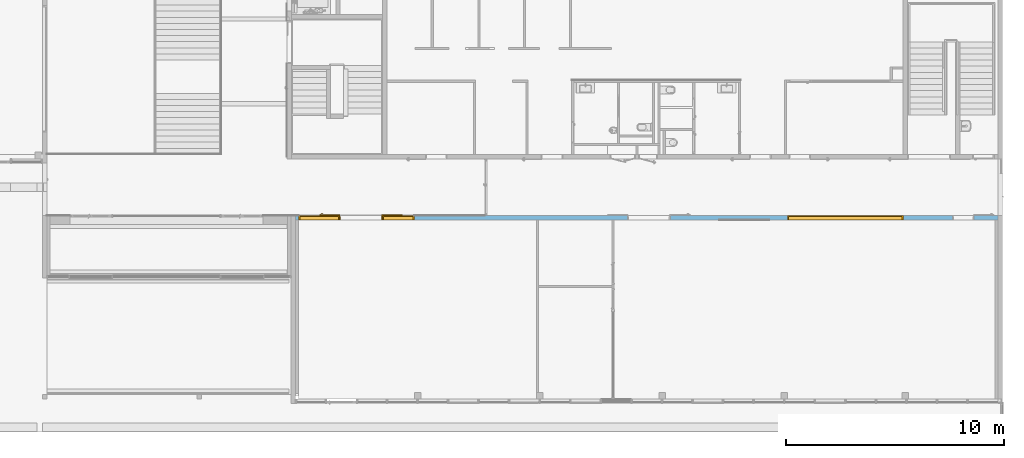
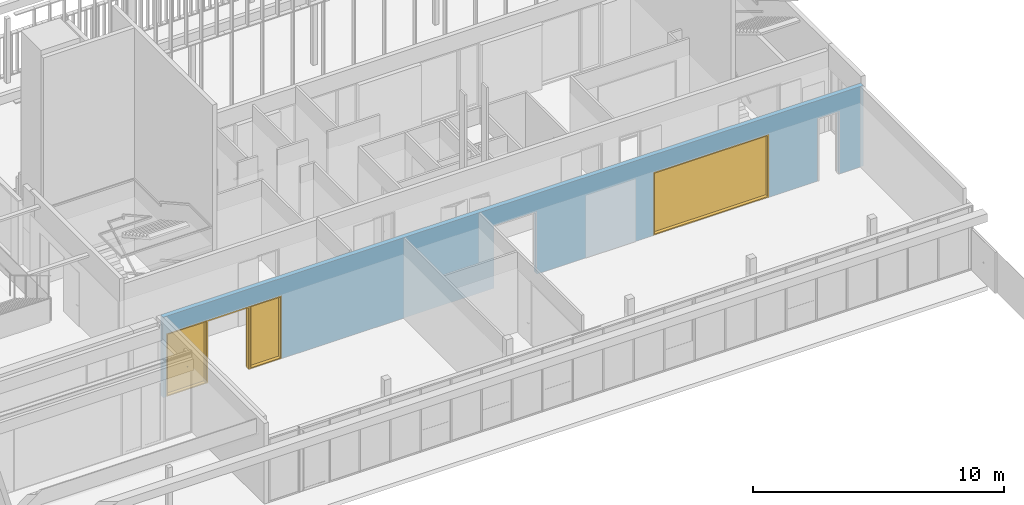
# One storey, part 223 of 240: 3 windows, 1 door, 6 openings, plus 1 element that does not belong to this part.
"""IFC2X3 building model written with IfcOpenShell, lengths in centimetres."""

import ifcopenshell
import ifcopenshell.guid

model = None  # the IFC model being written
_history = None  # IfcOwnerHistory: only IFC2X3 demands one
_inside = {}  # id of a spatial element -> (the spatial element, [elements in it])
_under = {}  # id of a project, library or spatial element -> (it, [spatial elements below it])
_declared = {}  # id of a project -> (the project, [libraries it declares])
_typed = {}  # id of a type object -> (the type object, [elements of that type])
_made_of = {}  # id of a material, layer set ... -> (it, [elements and type objects made of it])


def new_model(schema):
    """Start an empty IFC model of exactly this schema.

    Asked for "IFC4X3", IfcOpenShell would pick the latest addendum, in which some entities
    have other attributes; the version numbers below select the first issue.
    IFC2X3 requires an IfcOwnerHistory on every rooted entity: one is made here for all.
    """
    global model, _history
    if schema == "IFC4X3":
        model = ifcopenshell.file(schema_version=(4, 3, 0, 0))
    else:
        model = ifcopenshell.file(schema=schema)
    _inside.clear()
    _under.clear()
    _declared.clear()
    _typed.clear()
    _made_of.clear()
    _history = None
    if model.schema == "IFC2X3":
        org = make("IfcOrganization", Name="unknown")
        user = make(
            "IfcPersonAndOrganization",
            ThePerson=make("IfcPerson", FamilyName="unknown"),
            TheOrganization=org,
        )
        app = make(
            "IfcApplication",
            ApplicationDeveloper=org,
            Version="unknown",
            ApplicationFullName="unknown",
            ApplicationIdentifier="unknown",
        )
        _history = make(
            "IfcOwnerHistory",
            OwningUser=user,
            OwningApplication=app,
            ChangeAction="ADDED",
            CreationDate=0,
        )
    return model


def make(cls, **values):
    """One entity of the class cls with the attributes given. An attribute that is None is left unset."""
    return model.create_entity(
        cls, **{name: value for name, value in values.items() if value is not None}
    )


def entity(cls, *values):
    """Any entity or typed value of the class cls, its attributes in the order of the schema. None: left unset."""
    e = model.create_entity(cls)
    for i, value in enumerate(values):
        if value is not None:
            e[i] = value
    return e


def rooted(cls, **values):
    """An entity with a GlobalId (a new one), such as an element, a storey or a relation."""
    return make(cls, GlobalId=ifcopenshell.guid.new(), OwnerHistory=_history, **values)


def si_unit(unit_type, name, prefix=None):
    """IfcSIUnit, for example si_unit("LENGTHUNIT", "METRE", prefix="MILLI")."""
    return make("IfcSIUnit", UnitType=unit_type, Prefix=prefix, Name=name)


def converted_unit(unit_type, name, factor, base, dimensions=None, offset=None):
    """IfcConversionBasedUnit, such as the inch: factor (a typed value) times the base unit."""
    return make(
        "IfcConversionBasedUnit"
        if offset is None
        else "IfcConversionBasedUnitWithOffset",
        ConversionOffset=offset,
        Dimensions=None
        if dimensions is None
        else entity("IfcDimensionalExponents", *dimensions),
        UnitType=unit_type,
        Name=name,
        ConversionFactor=make(
            "IfcMeasureWithUnit", ValueComponent=factor, UnitComponent=base
        ),
    )


def derived_unit(unit_type, elements):
    """IfcDerivedUnit: a product of units, each with its exponent."""
    return make(
        "IfcDerivedUnit",
        Elements=[
            make("IfcDerivedUnitElement", Unit=unit, Exponent=power)
            for unit, power in elements
        ],
        UnitType=unit_type,
    )


def assignment(units):
    """IfcUnitAssignment: the units of a project."""
    return None if units is None else make("IfcUnitAssignment", Units=units)


def point(xyz):
    """IfcCartesianPoint."""
    return None if xyz is None else make("IfcCartesianPoint", Coordinates=xyz)


def direction(xyz):
    """IfcDirection."""
    return None if xyz is None else make("IfcDirection", DirectionRatios=xyz)


def frame(location, z_axis=None, x_axis=None):
    """IfcAxis2Placement3D, a coordinate frame: its origin and axes. An axis left out is left unset."""
    return make(
        "IfcAxis2Placement3D",
        Location=point(location),
        Axis=direction(z_axis),
        RefDirection=direction(x_axis),
    )


def frame_2d(location, x_axis=None):
    """IfcAxis2Placement2D, a coordinate frame in the plane: its origin and x axis."""
    return make(
        "IfcAxis2Placement2D", Location=point(location), RefDirection=direction(x_axis)
    )


def origin():
    """The frame at (0, 0, 0) with its axes left unset."""
    return frame((0.0, 0.0, 0.0))


def place(relative_to, where):
    """IfcLocalPlacement: puts the frame where relative to a parent placement (None: the world)."""
    return make(
        "IfcLocalPlacement", PlacementRelTo=relative_to, RelativePlacement=where
    )


def context(
    kind, dimensions, precision=None, world=None, true_north=None, identifier=None
):
    """IfcGeometricRepresentationContext, for example the 3D "Model" context."""
    return make(
        "IfcGeometricRepresentationContext",
        ContextIdentifier=identifier,
        ContextType=kind,
        CoordinateSpaceDimension=dimensions,
        Precision=precision,
        WorldCoordinateSystem=world,
        TrueNorth=true_north,
    )


def subcontext(parent, identifier, kind, view, scale=None):
    """IfcGeometricRepresentationSubContext, for example "Body" below "Model"."""
    return make(
        "IfcGeometricRepresentationSubContext",
        ContextIdentifier=identifier,
        ContextType=kind,
        ParentContext=parent,
        TargetScale=scale,
        TargetView=view,
    )


def project(units=None, contexts=None):
    """IfcProject with its units and contexts."""
    return rooted(
        "IfcProject",
        Name="project",
        RepresentationContexts=contexts,
        UnitsInContext=assignment(units),
    )


def spatial(cls, under=None, at=None, **own):
    """A site, building, storey or space (cls), placed at a placement, below another one or the project."""
    s = rooted(cls, ObjectPlacement=at, **own)
    if under is not None:
        _under.setdefault(under.id(), (under, []))[1].append(s)
    return s


def polyline(points):
    """IfcPolyline through the points."""
    return make("IfcPolyline", Points=[point(p) for p in points])


def profile(cls, at=None, kind="AREA", **sizes):
    """A parametric profile (cls). Its sizes go by their IFC names, for example OverallWidth=200.0."""
    return make(cls, ProfileType=kind, Position=at, **sizes)


def rectangle(**sizes):
    """IfcRectangleProfileDef."""
    return profile("IfcRectangleProfileDef", **sizes)


def extrude(swept, where, along, depth):
    """IfcExtrudedAreaSolid: the profile swept, set in the frame where, extruded along a direction by depth."""
    return make(
        "IfcExtrudedAreaSolid",
        SweptArea=swept,
        Position=where,
        ExtrudedDirection=direction(along),
        Depth=depth,
    )


def clip(a, b, op="DIFFERENCE"):
    """IfcBooleanClippingResult: the solid a cut by the half space b."""
    return make(
        "IfcBooleanClippingResult", Operator=op, FirstOperand=a, SecondOperand=b
    )


def bounded_halfspace(plane, agree, where, boundary):
    """IfcPolygonalBoundedHalfSpace: a half space limited to a polygon's prism."""
    return make(
        "IfcPolygonalBoundedHalfSpace",
        BaseSurface=make("IfcPlane", Position=plane),
        AgreementFlag=agree,
        Position=where,
        PolygonalBoundary=boundary,
    )


def faces_of(points, faces, orient=None, outer=None):
    """IfcFace entities. A face is a list of loops; a loop is a list of indices into points, from 0.

    orient and outer hold one flag for each loop. By default every Orientation is true, the
    first loop of a face is its IfcFaceOuterBound and the others are IfcFaceBound.
    """
    made = []
    for i, loops in enumerate(faces):
        bounds = []
        for j, loop in enumerate(loops):
            is_outer = j == 0 if outer is None else outer[i][j]
            bounds.append(
                make(
                    "IfcFaceOuterBound" if is_outer else "IfcFaceBound",
                    Bound=make("IfcPolyLoop", Polygon=[points[k] for k in loop]),
                    Orientation=True if orient is None else orient[i][j],
                )
            )
        made.append(make("IfcFace", Bounds=bounds))
    return made


def faceted_brep(points, faces, orient=None, outer=None, voids=None):
    """IfcFacetedBrep: a solid bounded by flat faces; with voids (closed shells), ...WithVoids."""
    shared = [point(p) for p in points]
    hull = make("IfcClosedShell", CfsFaces=faces_of(shared, faces, orient, outer))
    if voids is None:
        return make("IfcFacetedBrep", Outer=hull)
    return make(
        "IfcFacetedBrepWithVoids",
        Outer=hull,
        Voids=[
            make(cls, CfsFaces=faces_of(shared, fs, o, b)) for cls, fs, o, b in voids
        ],
    )


def shape(context_of_items, identifier, shape_type, items):
    """IfcShapeRepresentation: the items that make up one representation, for example the "Body"."""
    return make(
        "IfcShapeRepresentation",
        ContextOfItems=context_of_items,
        RepresentationIdentifier=identifier,
        RepresentationType=shape_type,
        Items=items,
    )


def source(mapping_origin, context_of_items, identifier, shape_type, items):
    """IfcRepresentationMap: a shape defined once, which mapped items show again and again."""
    return make(
        "IfcRepresentationMap",
        MappingOrigin=mapping_origin,
        MappedRepresentation=shape(context_of_items, identifier, shape_type, items),
    )


def transform(
    local_origin,
    x_axis=None,
    y_axis=None,
    z_axis=None,
    scale=None,
    scale2=None,
    scale3=None,
    uniform=True,
):
    """IfcCartesianTransformationOperator3D, or its non-uniform kind. x_axis, y_axis, z_axis: its Axis1, 2, 3."""
    if uniform:
        return make(
            "IfcCartesianTransformationOperator3D",
            Axis1=direction(x_axis),
            Axis2=direction(y_axis),
            LocalOrigin=point(local_origin),
            Scale=scale,
            Axis3=direction(z_axis),
        )
    return make(
        "IfcCartesianTransformationOperator3DnonUniform",
        Axis1=direction(x_axis),
        Axis2=direction(y_axis),
        LocalOrigin=point(local_origin),
        Scale=scale,
        Axis3=direction(z_axis),
        Scale2=scale2,
        Scale3=scale3,
    )


def mapped(mapping_source, mapping_target):
    """IfcMappedItem: shows the shape of a source again, moved by a transform."""
    return make(
        "IfcMappedItem", MappingSource=mapping_source, MappingTarget=mapping_target
    )


def material(Name=None, Category=None):
    """IfcMaterial."""
    return make("IfcMaterial", Name=Name, Category=Category)


def material_list(materials):
    """IfcMaterialList."""
    return make("IfcMaterialList", Materials=materials)


def layer(
    of_material, thickness, ventilated=None, Name=None, Category=None, Priority=None
):
    """IfcMaterialLayer: one layer of a wall or slab, of a material (None: an air gap)."""
    return make(
        "IfcMaterialLayer",
        Material=of_material,
        LayerThickness=thickness,
        IsVentilated=ventilated,
        Name=Name,
        Category=Category,
        Priority=Priority,
    )


def layer_set(layers, Name=None):
    """IfcMaterialLayerSet."""
    return make("IfcMaterialLayerSet", MaterialLayers=layers, LayerSetName=Name)


def layer_usage(for_layer_set, set_direction, sense, offset, extent=None):
    """IfcMaterialLayerSetUsage: how a layer set lies in its element."""
    return make(
        "IfcMaterialLayerSetUsage",
        ForLayerSet=for_layer_set,
        LayerSetDirection=set_direction,
        DirectionSense=sense,
        OffsetFromReferenceLine=offset,
        ReferenceExtent=extent,
    )


def made_of(thing, what):
    """Note that an element or type object is made of a material, layer set ...; save() writes the relation."""
    if what is not None:
        _made_of.setdefault(what.id(), (what, []))[1].append(thing)
    return thing


def type_object(cls, material=None, **own):
    """A type object (cls), such as IfcWallType, which elements share."""
    return made_of(rooted(cls, **own), material)


def type_shapes(of_type, sources):
    """Give a type object the sources (RepresentationMaps) that its elements show as mapped items."""
    of_type.RepresentationMaps = sources


def element(
    cls,
    number,
    at=None,
    inside=None,
    cuts=None,
    type_object=None,
    material=None,
    context=None,
    identifier="Body",
    shape_type=None,
    held_by="IfcProductDefinitionShape",
    body=None,
    shapes=None,
    **own,
):
    """One element of the class cls, such as IfcWall. Its Tag is "e" and its number.

    at: its placement. inside: the storey or other place that contains it. cuts: it is an
    opening in that element (IfcRelVoidsElement). A single representation is given by context,
    identifier, shape_type and body (its items); several are given by shapes. held_by: the class
    of the entity that holds the representations. save() writes the other relations.
    """
    e = rooted(cls, Tag="e%d" % number, ObjectPlacement=at, **own)
    if body is not None:
        shapes = [shape(context, identifier, shape_type, body)]
    if shapes is not None:
        e.Representation = make(held_by, Representations=shapes)
    if inside is not None:
        _inside.setdefault(inside.id(), (inside, []))[1].append(e)
    if cuts is not None:
        rooted(
            "IfcRelVoidsElement", RelatingBuildingElement=cuts, RelatedOpeningElement=e
        )
    if type_object is not None:
        _typed.setdefault(type_object.id(), (type_object, []))[1].append(e)
    return made_of(e, material)


def fill(opening, filler):
    """IfcRelFillsElement: the door or window that sits in an opening."""
    return rooted(
        "IfcRelFillsElement",
        RelatingOpeningElement=opening,
        RelatedBuildingElement=filler,
    )


def aggregate(whole, parts):
    """IfcRelAggregates: a whole, such as a stair, and the parts it consists of."""
    return rooted("IfcRelAggregates", RelatingObject=whole, RelatedObjects=parts)


def save(model, path):
    """Write the relations noted so far, then the file.

    IfcRelAggregates (storeys below a building ...), IfcRelContainedInSpatialStructure (elements
    in a storey), IfcRelDefinesByType, IfcRelAssociatesMaterial and IfcRelDeclares: one each for
    every whole, place, type object, material and project.
    """
    for whole, parts in _under.values():
        aggregate(whole, parts)
    for where, things in _inside.values():
        rooted(
            "IfcRelContainedInSpatialStructure",
            RelatedElements=things,
            RelatingStructure=where,
        )
    for kind, things in _typed.values():
        rooted("IfcRelDefinesByType", RelatedObjects=things, RelatingType=kind)
    for what, things in _made_of.values():
        rooted("IfcRelAssociatesMaterial", RelatedObjects=things, RelatingMaterial=what)
    for by, libraries in _declared.values():
        rooted("IfcRelDeclares", RelatingContext=by, RelatedDefinitions=libraries)
    model.write(path)


model = new_model("IFC2X3")

# Units and contexts
model_context = context("Model", 3, precision=0.001, world=origin(), true_north=direction((6.12303176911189e-17, 1.0)))
body_context = subcontext(model_context, "Body", "Model", "MODEL_VIEW")
ifc_project = project(units=[si_unit("LENGTHUNIT", "METRE", prefix="CENTI"), si_unit("AREAUNIT", "SQUARE_METRE"), si_unit("VOLUMEUNIT", "CUBIC_METRE"), converted_unit("PLANEANGLEUNIT", "DEGREE", entity("IfcRatioMeasure", 0.0174532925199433), si_unit("PLANEANGLEUNIT", "RADIAN"), dimensions=[0, 0, 0, 0, 0, 0, 0]), si_unit("MASSUNIT", "GRAM", prefix="KILO"), derived_unit("MASSDENSITYUNIT", [(si_unit("MASSUNIT", "GRAM", prefix="KILO"), 1), (si_unit("LENGTHUNIT", "METRE"), -3)]), si_unit("TIMEUNIT", "SECOND"), si_unit("FREQUENCYUNIT", "HERTZ"), si_unit("THERMODYNAMICTEMPERATUREUNIT", "DEGREE_CELSIUS"), derived_unit("THERMALTRANSMITTANCEUNIT", [(si_unit("MASSUNIT", "GRAM", prefix="KILO"), 1), (si_unit("THERMODYNAMICTEMPERATUREUNIT", "KELVIN"), -1), (si_unit("TIMEUNIT", "SECOND"), -3)]), derived_unit("VOLUMETRICFLOWRATEUNIT", [(si_unit("LENGTHUNIT", "METRE"), 3), (si_unit("TIMEUNIT", "SECOND"), -1)]), si_unit("ELECTRICCURRENTUNIT", "AMPERE"), si_unit("ELECTRICVOLTAGEUNIT", "VOLT"), si_unit("POWERUNIT", "WATT"), si_unit("FORCEUNIT", "NEWTON", prefix="KILO"), si_unit("ILLUMINANCEUNIT", "LUX"), si_unit("LUMINOUSFLUXUNIT", "LUMEN"), si_unit("LUMINOUSINTENSITYUNIT", "CANDELA"), derived_unit("USERDEFINED", [(si_unit("MASSUNIT", "GRAM", prefix="KILO"), -1), (si_unit("LENGTHUNIT", "METRE"), -2), (si_unit("TIMEUNIT", "SECOND"), 3), (si_unit("LUMINOUSFLUXUNIT", "LUMEN"), 1)]), derived_unit("LINEARVELOCITYUNIT", [(si_unit("LENGTHUNIT", "METRE"), 1), (si_unit("TIMEUNIT", "SECOND"), -1)]), si_unit("PRESSUREUNIT", "PASCAL"), derived_unit("USERDEFINED", [(si_unit("LENGTHUNIT", "METRE"), -2), (si_unit("MASSUNIT", "GRAM", prefix="KILO"), 1), (si_unit("TIMEUNIT", "SECOND"), -2)])], contexts=[model_context])

# Site, building, storey
site_placement = place(None, frame((-2781.94577612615, 7442.24238424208, 0.0)))
site = spatial("IfcSite", under=ifc_project, at=site_placement, Name="Default", CompositionType="ELEMENT")
building_placement = place(site_placement, origin())
building = spatial("IfcBuilding", under=site, at=building_placement, CompositionType="ELEMENT")
storey_placement = place(building_placement, origin())
storey = spatial("IfcBuildingStorey", under=building, at=storey_placement, Name="N00 - COO", CompositionType="ELEMENT", Elevation=0.0)

# Wall, openings, windows, door
ifc_material_1 = material(Name="01 - Maçonnerie")
ifc_layer = layer(ifc_material_1, 20.0)
ifc_layer_set = layer_set([ifc_layer], Name="Mur de base:04 - Structure - béton - 20cm")
ifc_layer_usage = layer_usage(ifc_layer_set, "AXIS2", "NEGATIVE", 10.0)
wall_type = type_object("IfcWallType", Name="Mur de base:04 - Structure - béton - 20cm", PredefinedType="STANDARD", material=ifc_layer_set)
wall_placement = place(building_placement, frame((-3629.49987968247, -2200.15656731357, 0.0)))
wall = element("IfcWallStandardCase", 1, at=wall_placement, inside=storey, type_object=wall_type, material=ifc_layer_usage, Name="Mur de base:04 - Structure - béton - 20cm", ObjectType="Mur de base:04 - Structure - béton - 20cm", context=body_context, shape_type="Clipping", body=[
    clip(extrude(rectangle(XDim=3219.49999684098, YDim=19.9999999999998, at=frame_2d((1609.74999842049, -7.63833440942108e-14), x_axis=(-1.0, 0.0))), origin(), (0.0, 0.0, 1.0), 391.0), bounded_halfspace(frame((0.0, -10.0, 391.0), z_axis=(0.0, 0.0, -1.0), x_axis=(0.0, 1.0, 0.0)), True, frame((0.0, -10.0, 391.0)), polyline([(0.0, 0.0), (15.2999999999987, 0.0), (1104.50000207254, 0.0), (1114.50000207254, 0.0), (1450.3, 0.0), (1460.3, 0.0), (3204.19999684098, 0.0), (3219.49999684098, 0.0), (3219.49999684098, 20.0), (0.0, 20.0), (0.0, 0.0)]))),
])
opening_1_placement = place(wall_placement, frame((201.699996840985, 10.0, 0.0)))
opening_1 = element("IfcOpeningElement", 2, at=opening_1_placement, cuts=wall, Name="châssis intérieur vitré:châssis intérieur vitré (h=306):1", ObjectType="Opening", context=body_context, shape_type="SweptSolid", body=[
    extrude(rectangle(XDim=306.0, YDim=186.511887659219, at=frame_2d((153.0, 93.2559438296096), x_axis=(1.0, 0.0))), frame((0.0, 0.0, 0.0), z_axis=(0.0, -1.0, 0.0), x_axis=(0.0, 0.0, 1.0)), (0.0, 0.0, 1.0), 20.0),
])
opening_2_placement = place(wall_placement, frame((201.699996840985, -10.0, 0.0)))
opening_2 = element("IfcOpeningElement", 3, at=opening_2_placement, cuts=wall, Name="Int. Double:PV (1.90m x 3.00m):1", ObjectType="Opening", context=body_context, shape_type="SweptSolid", body=[
    extrude(rectangle(XDim=304.500000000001, YDim=197.0, at=frame_2d((152.250000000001, 98.5), x_axis=(1.0, 0.0))), frame((0.0, 0.0, 0.0), z_axis=(0.0, 1.0, 0.0), x_axis=(0.0, 0.0, 1.0)), (0.0, 0.0, 1.0), 20.0),
])
opening_3_placement = place(wall_placement, frame((544.500002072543, 10.0, 0.0)))
opening_3 = element("IfcOpeningElement", 4, at=opening_3_placement, cuts=wall, Name="châssis intérieur vitré:châssis intérieur vitré (h=306):1", ObjectType="Opening", context=body_context, shape_type="SweptSolid", body=[
    extrude(rectangle(XDim=306.0, YDim=145.800005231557, at=frame_2d((153.0, 72.9000026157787), x_axis=(1.0, 0.0))), frame((0.0, 0.0, 0.0), z_axis=(0.0, -1.0, 0.0), x_axis=(0.0, 0.0, 1.0)), (0.0, 0.0, 1.0), 20.0),
])
opening_4_placement = place(wall_placement, frame((1520.3, -10.0, 0.0)))
element("IfcOpeningElement", 5, at=opening_4_placement, cuts=wall, Name="Int. Double:PV (1.90m x 3.00m):1", ObjectType="Opening", context=body_context, shape_type="SweptSolid", body=[
    extrude(rectangle(XDim=304.500000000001, YDim=197.0, at=frame_2d((152.250000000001, 98.5), x_axis=(1.0, 0.0))), frame((0.0, 0.0, 0.0), z_axis=(0.0, 1.0, 0.0), x_axis=(0.0, 0.0, 1.0)), (0.0, 0.0, 1.0), 20.0),
])
opening_5_placement = place(wall_placement, frame((3009.49999684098, -10.0, 0.0)))
element("IfcOpeningElement", 6, at=opening_5_placement, cuts=wall, Name="Int. Simple:PV (0.93m x 3.00m):1", ObjectType="Opening", context=body_context, shape_type="SweptSolid", body=[
    extrude(rectangle(XDim=304.500000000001, YDim=99.9999999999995, at=frame_2d((152.250000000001, 49.9999999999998), x_axis=(1.0, 0.0))), frame((0.0, 0.0, 0.0), z_axis=(0.0, 1.0, 0.0), x_axis=(0.0, 0.0, 1.0)), (0.0, 0.0, 1.0), 20.0),
])
opening_6_placement = place(wall_placement, frame((2784.50000199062, 10.0, 0.0)))
opening_6 = element("IfcOpeningElement", 7, at=opening_6_placement, cuts=wall, Name="châssis intérieur vitré:châssis intérieur vitré (h=306):1", ObjectType="Opening", context=body_context, shape_type="SweptSolid", body=[
    extrude(rectangle(XDim=306.0, YDim=530.0, at=frame_2d((153.0, 265.0), x_axis=(1.0, 0.0))), frame((0.0, 0.0, 0.0), z_axis=(0.0, -1.0, 0.0), x_axis=(0.0, 0.0, 1.0)), (0.0, 0.0, 1.0), 20.0),
])
ifc_material_2 = material(Name="Verre")
ifc_material_3 = material(Name="huisserie bois")
ifc_material_list_1 = material_list([ifc_material_2, ifc_material_3])
ifc_material_list_2 = material_list([ifc_material_2, ifc_material_3])
window_style_1 = type_object("IfcWindowStyle", Name="châssis intérieur vitré (h=306)", ConstructionType="NOTDEFINED", OperationType="NOTDEFINED", ParameterTakesPrecedence=False, Sizeable=False, material=ifc_material_list_2)
shared_shape_1 = source(origin(), body_context, "Body", "Brep", [
    faceted_brep([(183.511887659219, 5.0, 303.0), (183.511887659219, 5.0, 3.0), (3.0, 5.0, 3.0), (3.0, 5.0, 303.0), (183.511887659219, 2.0, 303.0), (183.511887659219, 2.0, 3.0), (3.0, 2.0, 3.0), (3.0, 2.0, 303.0)], [[[0, 1, 2, 3]], [[1, 0, 4, 5]], [[2, 1, 5, 6]], [[3, 2, 6, 7]], [[4, 7, 6, 5]], [[0, 3, 7, 4]]]),
    faceted_brep([(183.511887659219, 2.0, 303.0), (183.511887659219, 0.0, 303.0), (183.511887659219, 0.0, 3.0), (183.511887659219, 2.0, 3.0), (181.511887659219, 0.0, 5.0), (5.0, 0.0, 5.0), (5.0, 0.0, 301.0), (181.511887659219, 0.0, 301.0), (3.0, 0.0, 303.0), (3.0, 0.0, 3.0), (3.0, 2.0, 3.0), (3.0, 2.0, 303.0), (181.511887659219, 2.0, 301.0), (5.0, 2.0, 301.0), (5.0, 2.0, 5.0), (181.511887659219, 2.0, 5.0)], [[[0, 1, 2, 3]], [[4, 5, 6, 7], [1, 8, 9, 2]], [[3, 2, 9, 10]], [[3, 10, 11, 0], [12, 13, 14, 15]], [[7, 12, 15, 4]], [[4, 15, 14, 5]], [[10, 9, 8, 11]], [[5, 14, 13, 6]], [[11, 8, 1, 0]], [[6, 13, 12, 7]]], outer=[[True], [False, True], [True], [True, False], [True], [True], [True], [True], [True], [True]]),
    faceted_brep([(181.511887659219, 5.0, 301.0), (181.511887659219, 20.0, 301.0), (181.511887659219, 20.0, 5.0), (181.511887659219, 5.0, 5.0), (186.511887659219, 20.0, 0.0), (0.0, 20.0, 0.0), (0.0, 20.0, 306.0), (186.511887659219, 20.0, 306.0), (5.0, 20.0, 301.0), (5.0, 20.0, 5.0), (5.0, 5.0, 5.0), (5.0, 5.0, 301.0), (183.511887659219, 5.0, 303.0), (3.0, 5.0, 303.0), (3.0, 5.0, 3.0), (183.511887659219, 5.0, 3.0), (183.511887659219, 0.0, 303.0), (183.511887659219, 0.0, 3.0), (3.0, 0.0, 3.0), (3.0, 0.0, 303.0), (186.511887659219, 0.0, 306.0), (0.0, 0.0, 306.0), (0.0, 0.0, 0.0), (186.511887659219, 0.0, 0.0)], [[[0, 1, 2, 3]], [[4, 5, 6, 7], [1, 8, 9, 2]], [[3, 2, 9, 10]], [[3, 10, 11, 0], [12, 13, 14, 15]], [[16, 12, 15, 17]], [[17, 15, 14, 18]], [[17, 18, 19, 16], [20, 21, 22, 23]], [[7, 20, 23, 4]], [[4, 23, 22, 5]], [[10, 9, 8, 11]], [[18, 14, 13, 19]], [[5, 22, 21, 6]], [[11, 8, 1, 0]], [[19, 13, 12, 16]], [[6, 21, 20, 7]]], outer=[[True], [True, False], [True], [False, True], [True], [True], [False, True], [True], [True], [True], [True], [True], [True], [True], [True]]),
])
type_shapes(window_style_1, [shared_shape_1])
window_1_placement = place(opening_1_placement, frame((0.0, 0.0, 0.0), z_axis=(0.0, 0.0, 1.0), x_axis=(-1.0, 0.0, 0.0)))
window_1 = element("IfcWindow", 8, at=window_1_placement, inside=storey, type_object=window_style_1, material=ifc_material_list_1, Name="châssis intérieur vitré:châssis intérieur vitré (h=306)", ObjectType="châssis intérieur vitré:châssis intérieur vitré (h=306)", OverallHeight=306.0, OverallWidth=186.511887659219, context=body_context, shape_type="MappedRepresentation", body=[
    mapped(shared_shape_1, transform((0.0, 0.0, 0.0), scale=1.0)),
])
fill(opening_1, window_1)
ifc_material_list_3 = material_list([ifc_material_2, ifc_material_3])
ifc_material_list_4 = material_list([ifc_material_2, ifc_material_3])
window_style_2 = type_object("IfcWindowStyle", Name="châssis intérieur vitré (h=306)", ConstructionType="NOTDEFINED", OperationType="NOTDEFINED", ParameterTakesPrecedence=False, Sizeable=False, material=ifc_material_list_4)
shared_shape_2 = source(origin(), body_context, "Body", "Brep", [
    faceted_brep([(527.0, 5.0, 303.0), (527.0, 5.0, 3.0), (3.0, 5.0, 3.0), (3.0, 5.0, 303.0), (527.0, 2.0, 303.0), (527.0, 2.0, 3.0), (3.0, 2.0, 3.0), (3.0, 2.0, 303.0)], [[[0, 1, 2, 3]], [[1, 0, 4, 5]], [[2, 1, 5, 6]], [[3, 2, 6, 7]], [[4, 7, 6, 5]], [[0, 3, 7, 4]]]),
    faceted_brep([(527.0, 2.0, 303.0), (527.0, 0.0, 303.0), (527.0, 0.0, 3.0), (527.0, 2.0, 3.0), (525.0, 0.0, 5.0), (5.0, 0.0, 5.0), (5.0, 0.0, 301.0), (525.0, 0.0, 301.0), (3.0, 0.0, 303.0), (3.0, 0.0, 3.0), (3.0, 2.0, 3.0), (3.0, 2.0, 303.0), (525.0, 2.0, 301.0), (5.0, 2.0, 301.0), (5.0, 2.0, 5.0), (525.0, 2.0, 5.0)], [[[0, 1, 2, 3]], [[4, 5, 6, 7], [1, 8, 9, 2]], [[3, 2, 9, 10]], [[3, 10, 11, 0], [12, 13, 14, 15]], [[7, 12, 15, 4]], [[4, 15, 14, 5]], [[10, 9, 8, 11]], [[5, 14, 13, 6]], [[11, 8, 1, 0]], [[6, 13, 12, 7]]], outer=[[True], [False, True], [True], [True, False], [True], [True], [True], [True], [True], [True]]),
    faceted_brep([(525.0, 5.0, 301.0), (525.0, 20.0, 301.0), (525.0, 20.0, 5.0), (525.0, 5.0, 5.0), (530.0, 20.0, 0.0), (0.0, 20.0, 0.0), (0.0, 20.0, 306.0), (530.0, 20.0, 306.0), (5.0, 20.0, 301.0), (5.0, 20.0, 5.0), (5.0, 5.0, 5.0), (5.0, 5.0, 301.0), (527.0, 5.0, 303.0), (3.0, 5.0, 303.0), (3.0, 5.0, 3.0), (527.0, 5.0, 3.0), (527.0, 0.0, 303.0), (527.0, 0.0, 3.0), (3.0, 0.0, 3.0), (3.0, 0.0, 303.0), (530.0, 0.0, 306.0), (0.0, 0.0, 306.0), (0.0, 0.0, 0.0), (530.0, 0.0, 0.0)], [[[0, 1, 2, 3]], [[4, 5, 6, 7], [1, 8, 9, 2]], [[3, 2, 9, 10]], [[3, 10, 11, 0], [12, 13, 14, 15]], [[16, 12, 15, 17]], [[17, 15, 14, 18]], [[17, 18, 19, 16], [20, 21, 22, 23]], [[7, 20, 23, 4]], [[4, 23, 22, 5]], [[10, 9, 8, 11]], [[18, 14, 13, 19]], [[5, 22, 21, 6]], [[11, 8, 1, 0]], [[19, 13, 12, 16]], [[6, 21, 20, 7]]], outer=[[True], [True, False], [True], [False, True], [True], [True], [False, True], [True], [True], [True], [True], [True], [True], [True], [True]]),
])
type_shapes(window_style_2, [shared_shape_2])
window_2_placement = place(opening_6_placement, frame((0.0, 0.0, 0.0), z_axis=(0.0, 0.0, 1.0), x_axis=(-1.0, 0.0, 0.0)))
window_2 = element("IfcWindow", 9, at=window_2_placement, inside=storey, type_object=window_style_2, material=ifc_material_list_3, Name="châssis intérieur vitré:châssis intérieur vitré (h=306)", ObjectType="châssis intérieur vitré:châssis intérieur vitré (h=306)", OverallHeight=306.0, OverallWidth=530.0, context=body_context, shape_type="MappedRepresentation", body=[
    mapped(shared_shape_2, transform((0.0, 0.0, 0.0), scale=1.0)),
])
fill(opening_6, window_2)
ifc_material_4 = material(Name="Bois - Panneau de porte")
ifc_material_5 = material(Name="Finition Peinture - Blanc satiné")
ifc_material_6 = material(Name="Bois - Cadre de porte")
ifc_material_list_5 = material_list([ifc_material_4, ifc_material_5, ifc_material_6])
ifc_material_list_6 = material_list([ifc_material_4, ifc_material_5, ifc_material_6])
door_style = type_object("IfcDoorStyle", Name="PV (1.90m x 3.00m)", ConstructionType="NOTDEFINED", OperationType="DOUBLE_DOOR_SINGLE_SWING", ParameterTakesPrecedence=False, Sizeable=False, material=ifc_material_list_6)
shared_shape_3 = source(origin(), body_context, "Body", "Brep", [
    faceted_brep([(-91.4999999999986, -4.0, 301.0), (-91.4999999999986, -4.0, 0.0), (3.50000000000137, -4.0, 0.0), (3.50000000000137, -4.0, 301.0), (-91.4999999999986, 0.0, 301.0), (3.50000000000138, 0.0, 301.0), (3.50000000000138, 0.0, 0.0), (-91.4999999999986, 0.0, 0.0)], [[[0, 1, 2, 3]], [[4, 5, 6, 7]], [[3, 5, 4, 0]], [[2, 6, 5, 3]], [[1, 7, 6, 2]], [[0, 4, 7, 1]]]),
    faceted_brep([(281.464723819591, 0.499999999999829, 86.6003983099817), (280.500000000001, 0.499999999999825, 87.0), (280.500000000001, 0.499999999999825, 108.0), (281.464723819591, 0.499999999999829, 108.399601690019), (282.500000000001, 0.499999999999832, 108.535898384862), (283.535276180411, 0.499999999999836, 108.399601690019), (284.500000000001, 0.499999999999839, 108.0), (284.500000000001, 0.499999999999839, 87.0), (283.535276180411, 0.499999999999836, 86.6003983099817), (282.500000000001, 0.499999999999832, 86.464101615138), (281.464723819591, 0.0, 108.399601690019), (280.500000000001, 0.0, 108.0), (280.500000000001, 0.0, 87.0), (281.464723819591, 0.0, 86.6003983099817), (282.500000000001, 0.0, 86.464101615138), (283.535276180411, 0.0, 86.6003983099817), (284.500000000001, 0.0, 87.0), (284.500000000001, 0.0, 108.0), (283.535276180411, 0.0, 108.399601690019), (282.500000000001, 0.0, 108.535898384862)], [[[0, 1, 2, 3, 4, 5, 6, 7, 8, 9]], [[10, 11, 12, 13, 14, 15, 16, 17, 18, 19]], [[16, 15, 8, 7]], [[8, 15, 14, 9]], [[14, 13, 0, 9]], [[13, 12, 1, 0]], [[2, 1, 12, 11]], [[11, 10, 3, 2]], [[3, 10, 19, 4]], [[19, 18, 5, 4]], [[18, 17, 6, 5]], [[7, 6, 17, 16]]]),
    faceted_brep([(281.464723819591, -4.0, 86.6003983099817), (280.500000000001, -4.0, 87.0), (280.500000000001, -4.0, 108.0), (281.464723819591, -4.0, 108.399601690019), (282.500000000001, -4.0, 108.535898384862), (283.535276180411, -4.0, 108.399601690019), (284.500000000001, -4.0, 108.0), (284.500000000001, -4.0, 87.0), (283.535276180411, -4.0, 86.6003983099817), (282.500000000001, -4.0, 86.464101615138), (281.464723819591, -4.50000000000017, 108.399601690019), (280.500000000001, -4.50000000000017, 108.0), (280.500000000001, -4.50000000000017, 87.0), (281.464723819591, -4.50000000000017, 86.6003983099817), (282.500000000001, -4.50000000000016, 86.464101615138), (283.535276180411, -4.50000000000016, 86.6003983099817), (284.500000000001, -4.50000000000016, 87.0), (284.500000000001, -4.50000000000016, 108.0), (283.535276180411, -4.50000000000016, 108.399601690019), (282.500000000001, -4.50000000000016, 108.535898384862)], [[[0, 1, 2, 3, 4, 5, 6, 7, 8, 9]], [[10, 11, 12, 13, 14, 15, 16, 17, 18, 19]], [[11, 10, 3, 2]], [[3, 10, 19, 4]], [[19, 18, 5, 4]], [[18, 17, 6, 5]], [[7, 6, 17, 16]], [[16, 15, 8, 7]], [[8, 15, 14, 9]], [[14, 13, 0, 9]], [[13, 12, 1, 0]], [[2, 1, 12, 11]]]),
    faceted_brep([(282.702529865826, 0.49999999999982, 100.778044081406), (282.297470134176, 0.499999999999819, 100.778044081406), (281.899999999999, 0.499999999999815, 100.699999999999), (281.9, 0.499999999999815, 99.3000000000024), (282.297470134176, 0.499999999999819, 99.2219559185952), (282.702529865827, 0.49999999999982, 99.221955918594), (283.100000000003, 0.499999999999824, 99.2999999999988), (283.100000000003, 0.499999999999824, 100.7), (283.100000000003, 3.26509507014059, 100.7), (282.702529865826, 3.10045754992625, 100.778044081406), (281.097641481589, 4.70534593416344, 100.778044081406), (280.929860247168, 4.30028620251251, 100.778044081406), (282.297470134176, 2.93267631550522, 100.778044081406), (281.899999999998, 2.76803879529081, 100.7), (281.899999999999, 2.76803879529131, 99.3000000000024), (282.297470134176, 2.93267631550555, 99.2219559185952), (280.929860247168, 4.3002862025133, 99.2219559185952), (281.097641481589, 4.70534593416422, 99.221955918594), (282.702529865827, 3.10045754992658, 99.221955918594), (283.100000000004, 3.26509507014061, 99.2999999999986), (281.262279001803, 5.10281606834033, 100.7), (280.765222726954, 3.90281606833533, 100.7), (280.765222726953, 3.9028160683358, 99.3000000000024), (281.262279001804, 5.10281606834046, 99.2999999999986), (272.498135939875, 5.1028160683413, 99.2999999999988), (272.498135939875, 4.70534593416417, 99.221955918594), (272.498135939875, 4.30028620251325, 99.2219559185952), (272.498135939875, 3.90281606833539, 99.3000000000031), (272.498135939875, 3.90281606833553, 100.7), (272.498135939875, 4.30028620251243, 100.778044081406), (272.498135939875, 4.70534593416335, 100.778044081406), (272.498135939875, 5.10281606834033, 100.699999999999), (277.26923027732, 5.10281606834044, 100.7), (276.713998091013, 4.50281606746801, 100.78786867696), (276.631679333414, 3.90281606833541, 100.7), (276.631679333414, 3.90281606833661, 99.3000000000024), (276.713998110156, 4.50281607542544, 99.2121313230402), (277.269229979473, 5.10281606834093, 99.2999999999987)], [[[0, 1, 2, 3, 4, 5, 6, 7]], [[8, 9, 0, 7]], [[9, 10, 11, 12, 1, 0]], [[12, 13, 2, 1]], [[3, 2, 13, 14]], [[14, 15, 4, 3]], [[15, 16, 17, 18, 5, 4]], [[18, 19, 6, 5]], [[7, 6, 19, 8]], [[20, 10, 9, 8]], [[11, 21, 13, 12]], [[14, 13, 21, 22]], [[22, 16, 15, 14]], [[17, 23, 19, 18]], [[8, 19, 23, 20]], [[24, 25, 26, 27, 28, 29, 30, 31]], [[32, 30, 33]], [[31, 30, 32]], [[10, 20, 32]], [[33, 34, 11]], [[21, 11, 34]], [[34, 29, 28]], [[30, 29, 33]], [[29, 34, 33]], [[10, 32, 33]], [[10, 33, 11]], [[22, 21, 34, 28, 27, 35]], [[35, 26, 36]], [[37, 36, 25]], [[22, 35, 16]], [[35, 27, 26]], [[24, 37, 25]], [[23, 17, 37]], [[37, 17, 36]], [[17, 16, 36]], [[16, 35, 36]], [[25, 36, 26]], [[20, 23, 37, 24, 31, 32]]]),
    faceted_brep([(282.702529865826, -4.50000000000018, 100.778044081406), (283.100000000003, -4.50000000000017, 100.7), (283.100000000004, -4.50000000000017, 99.2999999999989), (282.702529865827, -4.50000000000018, 99.221955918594), (282.297470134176, -4.50000000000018, 99.2219559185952), (281.899999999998, -4.50000000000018, 99.3000000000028), (281.899999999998, -4.50000000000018, 100.7), (282.297470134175, -4.50000000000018, 100.778044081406), (281.899999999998, -6.74852045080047, 99.3000000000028), (281.899999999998, -6.74852045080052, 100.7), (282.297470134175, -6.91315797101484, 100.778044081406), (280.916109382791, -8.29451872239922, 100.778044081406), (281.083890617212, -8.69957845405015, 100.778044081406), (282.702529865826, -7.08093920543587, 100.778044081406), (283.100000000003, -7.24557672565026, 100.7), (283.100000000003, -7.24557672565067, 99.2999999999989), (282.702529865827, -7.08093920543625, 99.221955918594), (281.083890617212, -8.69957845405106, 99.221955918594), (280.916109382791, -8.29451872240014, 99.2219559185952), (282.297470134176, -6.91315797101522, 99.2219559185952), (280.751471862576, -7.89704858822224, 99.3000000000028), (280.751471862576, -7.89704858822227, 100.7), (281.248528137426, -9.09704858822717, 100.7), (281.248528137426, -9.09704858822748, 99.2999999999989), (272.495421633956, -7.89704858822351, 99.3000000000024), (272.495421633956, -8.29451872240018, 99.2219559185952), (272.495421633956, -8.69957845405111, 99.221955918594), (272.495421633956, -9.09704858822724, 99.2999999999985), (272.495421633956, -9.09704858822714, 100.7), (272.495421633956, -8.69957845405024, 100.778044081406), (272.495421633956, -8.29451872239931, 100.778044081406), (272.495421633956, -7.89704858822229, 100.7), (276.623447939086, -7.89704858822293, 99.3000000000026), (276.623446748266, -7.89704858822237, 100.7), (276.705765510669, -8.49704858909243, 100.78786867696), (277.25547942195, -9.09704858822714, 100.7), (277.255479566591, -9.09704858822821, 99.2999999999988), (276.705765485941, -8.49704858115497, 99.2121313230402)], [[[0, 1, 2, 3, 4, 5, 6, 7]], [[6, 5, 8, 9]], [[9, 10, 7, 6]], [[10, 11, 12, 13, 0, 7]], [[13, 14, 1, 0]], [[2, 1, 14, 15]], [[15, 16, 3, 2]], [[16, 17, 18, 19, 4, 3]], [[19, 8, 5, 4]], [[9, 8, 20, 21]], [[21, 11, 10, 9]], [[12, 22, 14, 13]], [[15, 14, 22, 23]], [[23, 17, 16, 15]], [[18, 20, 8, 19]], [[24, 25, 26, 27, 28, 29, 30, 31]], [[21, 20, 32, 24, 31, 33]], [[33, 30, 34]], [[35, 34, 29]], [[21, 33, 11]], [[33, 31, 30]], [[28, 35, 29]], [[22, 12, 35]], [[35, 12, 34]], [[12, 11, 34]], [[11, 33, 34]], [[29, 34, 30]], [[22, 35, 28, 27, 36, 23]], [[36, 26, 37]], [[27, 26, 36]], [[17, 23, 36]], [[37, 32, 18]], [[20, 18, 32]], [[32, 25, 24]], [[26, 25, 37]], [[25, 32, 37]], [[17, 36, 37]], [[17, 37, 18]]]),
    faceted_brep([(288.500000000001, -4.0, 301.0), (193.500000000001, -4.0, 301.0), (193.500000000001, -4.0, 0.0), (288.500000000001, -4.0, 0.0), (288.500000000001, 0.0, 301.0), (288.500000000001, 0.0, 0.0), (193.500000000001, 0.0, 0.0), (193.500000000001, 0.0, 301.0)], [[[0, 1, 2, 3]], [[4, 5, 6, 7]], [[1, 0, 4, 7]], [[2, 1, 7, 6]], [[3, 2, 6, 5]], [[0, 3, 5, 4]]]),
    faceted_brep([(0.0, 0.0, 0.0), (0.0, 20.0, 0.0), (5.0, 20.0, 0.0), (5.0, 4.0, 0.0), (3.5000000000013, 4.0, 0.0), (3.5000000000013, 0.0, 0.0), (0.0, 0.0, 304.500000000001), (0.0, 20.0, 304.500000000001), (197.0, 20.0, 304.500000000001), (197.0, 20.0, 0.0), (192.0, 20.0, 0.0), (192.0, 20.0, 299.5), (5.0, 20.0, 299.5), (5.0, 4.0, 299.5), (192.0, 4.0, 299.5), (192.0, 4.0, 0.0), (193.499999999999, 4.0, 0.0), (193.499999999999, 4.0, 301.0), (3.5000000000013, 4.0, 301.0), (3.5000000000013, 0.0, 301.0), (193.499999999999, 0.0, 301.0), (193.499999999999, 0.0, 0.0), (197.0, 0.0, 0.0), (197.0, 0.0, 304.500000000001)], [[[0, 1, 2, 3, 4, 5]], [[1, 0, 6, 7]], [[2, 1, 7, 8, 9, 10, 11, 12]], [[3, 2, 12, 13]], [[4, 3, 13, 14, 15, 16, 17, 18]], [[5, 4, 18, 19]], [[0, 5, 19, 20, 21, 22, 23, 6]], [[8, 23, 22, 9]], [[22, 21, 16, 15, 10, 9]], [[14, 11, 10, 15]], [[20, 17, 16, 21]], [[7, 6, 23, 8]], [[13, 12, 11, 14]], [[19, 18, 17, 20]]]),
    faceted_brep([(1.49999999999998, 20.0, 0.0), (-1.50000000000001, 20.0, 0.0), (-1.50000000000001, 20.5000000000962, 0.0), (1.49999999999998, 20.5000000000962, 0.0), (1.49999999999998, 20.0, 303.0), (195.5, 20.0, 303.0), (195.5, 20.0, 0.0), (198.5, 20.0, 0.0), (198.5, 20.0, 306.0), (-1.50000000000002, 20.0, 306.0), (-1.50000000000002, 20.5000000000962, 306.0), (198.5, 20.5000000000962, 306.0), (198.5, 20.5000000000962, 0.0), (195.5, 20.5000000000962, 0.0), (195.5, 20.5000000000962, 303.0), (1.49999999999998, 20.5000000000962, 303.0)], [[[0, 1, 2, 3]], [[1, 0, 4, 5, 6, 7, 8, 9]], [[2, 1, 9, 10]], [[3, 2, 10, 11, 12, 13, 14, 15]], [[0, 3, 15, 4]], [[5, 14, 13, 6]], [[6, 13, 12, 7]], [[11, 8, 7, 12]], [[10, 9, 8, 11]], [[4, 15, 14, 5]]]),
    faceted_brep([(-1.50000000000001, -0.500000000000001, 0.0), (1.49999999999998, -0.500000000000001, 0.0), (1.49999999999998, -0.500000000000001, 303.0), (195.5, -0.500000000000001, 303.0), (195.5, -0.500000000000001, 0.0), (198.5, -0.500000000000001, 0.0), (198.5, -0.500000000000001, 306.0), (-1.50000000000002, -0.500000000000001, 306.0), (-1.50000000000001, 0.0, 0.0), (-1.50000000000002, 0.0, 306.0), (1.49999999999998, 0.0, 0.0), (198.5, 0.0, 306.0), (198.5, 0.0, 0.0), (195.5, 0.0, 0.0), (195.5, 0.0, 303.0), (1.49999999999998, 0.0, 303.0)], [[[0, 1, 2, 3, 4, 5, 6, 7]], [[8, 0, 7, 9]], [[10, 8, 9, 11, 12, 13, 14, 15]], [[1, 10, 15, 2]], [[3, 14, 13, 4]], [[11, 6, 5, 12]], [[9, 7, 6, 11]], [[2, 15, 14, 3]], [[4, 13, 12, 5]], [[1, 0, 8, 10]]]),
])
type_shapes(door_style, [shared_shape_3])
door_placement = place(opening_2_placement, frame((197.0, 20.0, 0.0), z_axis=(0.0, 0.0, 1.0), x_axis=(-1.0, 0.0, 0.0)))
door = element("IfcDoor", 10, at=door_placement, inside=storey, type_object=door_style, material=ifc_material_list_5, Name="Int. Double:PV (1.90m x 3.00m)", ObjectType="Int. Double:PV (1.90m x 3.00m)", OverallHeight=304.500000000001, OverallWidth=197.0, context=body_context, shape_type="MappedRepresentation", body=[
    mapped(shared_shape_3, transform((0.0, 0.0, 0.0), scale=1.0)),
])
fill(opening_2, door)
ifc_material_list_7 = material_list([ifc_material_2, ifc_material_3])
ifc_material_list_8 = material_list([ifc_material_2, ifc_material_3])
window_style_3 = type_object("IfcWindowStyle", Name="châssis intérieur vitré (h=306)", ConstructionType="NOTDEFINED", OperationType="NOTDEFINED", ParameterTakesPrecedence=False, Sizeable=False, material=ifc_material_list_8)
shared_shape_4 = source(origin(), body_context, "Body", "Brep", [
    faceted_brep([(3.0, 5.0, 303.0), (142.800005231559, 5.0, 303.0), (142.800005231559, 5.0, 3.0), (3.0, 5.0, 3.0), (3.0, 2.0, 3.0), (3.0, 2.0, 303.0), (142.800005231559, 2.0, 3.0), (142.800005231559, 2.0, 303.0)], [[[0, 1, 2, 3]], [[3, 4, 5, 0]], [[2, 6, 4, 3]], [[1, 7, 6, 2]], [[5, 4, 6, 7]], [[0, 5, 7, 1]]]),
    faceted_brep([(3.0, 2.0, 303.0), (3.0, 2.0, 3.0), (3.0, 0.0, 3.0), (3.0, 0.0, 303.0), (142.800005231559, 0.0, 3.0), (142.800005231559, 0.0, 303.0), (5.0, 0.0, 5.0), (5.0, 0.0, 301.0), (140.800005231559, 0.0, 301.0), (140.800005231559, 0.0, 5.0), (142.800005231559, 2.0, 3.0), (142.800005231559, 2.0, 303.0), (5.0, 2.0, 301.0), (5.0, 2.0, 5.0), (140.800005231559, 2.0, 5.0), (140.800005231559, 2.0, 301.0)], [[[0, 1, 2, 3]], [[3, 2, 4, 5], [6, 7, 8, 9]], [[1, 10, 4, 2]], [[1, 0, 11, 10], [12, 13, 14, 15]], [[7, 6, 13, 12]], [[6, 9, 14, 13]], [[10, 11, 5, 4]], [[9, 8, 15, 14]], [[11, 0, 3, 5]], [[8, 7, 12, 15]]]),
    faceted_brep([(5.0, 5.0, 301.0), (5.0, 5.0, 5.0), (5.0, 20.0, 5.0), (5.0, 20.0, 301.0), (140.800005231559, 20.0, 5.0), (140.800005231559, 20.0, 301.0), (0.0, 20.0, 0.0), (0.0, 20.0, 306.0), (145.800005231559, 20.0, 306.0), (145.800005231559, 20.0, 0.0), (140.800005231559, 5.0, 5.0), (140.800005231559, 5.0, 301.0), (3.0, 5.0, 303.0), (3.0, 5.0, 3.0), (142.800005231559, 5.0, 3.0), (142.800005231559, 5.0, 303.0), (3.0, 0.0, 303.0), (3.0, 0.0, 3.0), (142.800005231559, 0.0, 3.0), (142.800005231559, 0.0, 303.0), (0.0, 0.0, 306.0), (0.0, 0.0, 0.0), (145.800005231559, 0.0, 0.0), (145.800005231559, 0.0, 306.0)], [[[0, 1, 2, 3]], [[3, 2, 4, 5], [6, 7, 8, 9]], [[1, 10, 4, 2]], [[1, 0, 11, 10], [12, 13, 14, 15]], [[16, 17, 13, 12]], [[17, 18, 14, 13]], [[17, 16, 19, 18], [20, 21, 22, 23]], [[7, 6, 21, 20]], [[6, 9, 22, 21]], [[10, 11, 5, 4]], [[18, 19, 15, 14]], [[9, 8, 23, 22]], [[11, 0, 3, 5]], [[19, 16, 12, 15]], [[8, 7, 20, 23]]], outer=[[True], [False, True], [True], [False, True], [True], [True], [False, True], [True], [True], [True], [True], [True], [True], [True], [True]]),
])
type_shapes(window_style_3, [shared_shape_4])
window_3_placement = place(opening_3_placement, frame((0.0, 0.0, 0.0), z_axis=(0.0, 0.0, 1.0), x_axis=(-1.0, 0.0, 0.0)))
window_3 = element("IfcWindow", 11, at=window_3_placement, inside=storey, type_object=window_style_3, material=ifc_material_list_7, Name="châssis intérieur vitré:châssis intérieur vitré (h=306)", ObjectType="châssis intérieur vitré:châssis intérieur vitré (h=306)", OverallHeight=306.0, OverallWidth=145.800005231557, context=body_context, shape_type="MappedRepresentation", body=[
    mapped(shared_shape_4, transform((0.0, 0.0, 0.0), scale=1.0)),
])
fill(opening_3, window_3)

save(model, "model.ifc")
